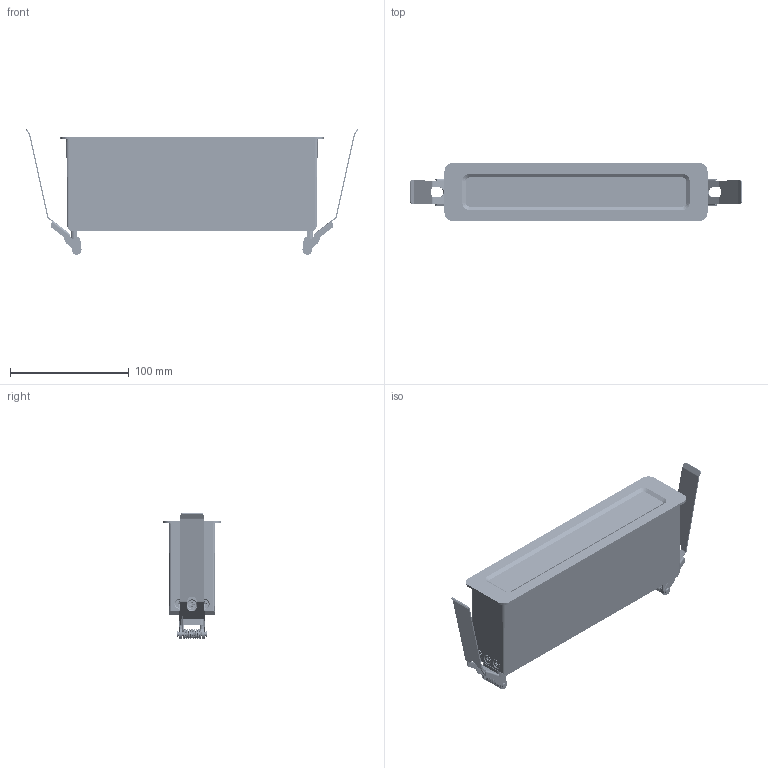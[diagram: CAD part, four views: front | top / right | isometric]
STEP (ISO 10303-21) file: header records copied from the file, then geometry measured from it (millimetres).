
FILE_DESCRIPTION(/* description */ (''),/* implementation_level */ '2;1');
FILE_NAME(/* name */ 'Darcy 8 Cells Assembly - Rec.stp',/* time_stamp */ '2026-02-19T10:52:57+11:00',/* author */ ('Mlight'),/* organization */ (''),/* preprocessor_version */ 'ST-DEVELOPER v20',/* originating_system */ 'Autodesk Inventor 2024',/* authorisation */ '');
FILE_SCHEMA (('AUTOMOTIVE_DESIGN { 1 0 10303 214 3 1 1 }'));
Products named in the file (22): Evelo X 12 Cell SM Darcy; Ledil Darcy PCB; Evelo X Plastic Internal Body Darcy; DARCY-4x1; Copy (1) of C19683_DARCY-SHD_004_MechanicalModel_001; Copy (1) of Mechanical-LENS; Copy (2) of Mechanical-LENS; Copy (3) of Mechanical-LENS; Copy (4) of Mechanical-LENS; Evelo X Aluminium End Cap; Evelo X Heat Sink Toshine Revision; Evelo X Gasket; AS 1427 - M4 x 10; Air Vent RSV-M12 1.5; Air Vent RSV-M12 1.5_1; Heyco Snap In Liquid Tight Bushing 4014; Evelo Modular SM Outer Body; Custom Spring Assembly; Custom Spring Holder; Custom Spring Leg; Pin; Spring
Assembly tree (40 placements, depth 3):
  Evelo X 12 Cell SM Darcy
    Ledil Darcy PCB
    Evelo X Plastic Internal Body Darcy
    DARCY-4x1  x2
      Copy (1) of C19683_DARCY-SHD_004_MechanicalModel_001
      Copy (1) of Mechanical-LENS
      Copy (2) of Mechanical-LENS
      Copy (3) of Mechanical-LENS
      Copy (4) of Mechanical-LENS
    Evelo X Aluminium End Cap  x2
    Evelo X Heat Sink Toshine Revision
    Evelo X Gasket  x2
    AS 1427 - M4 x 10  x14
    Air Vent RSV-M12 1.5_1  x2
    Air Vent RSV-M12 1.5  x2
    Heyco Snap In Liquid Tight Bushing 4014
    Evelo Modular SM Outer Body
    Custom Spring Assembly  x2
      Custom Spring Holder
      Custom Spring Leg
      Pin
      Spring
Bounding box: 279.49 x 48.89 x 105.83 mm (x, y, z)
Volume: 315612.9 mm3; surface area: 268830.3 mm2
Topology: 45 solids, 45 shells, 5753 faces, 14782 edges, 8812 vertices
Faces by surface type: bspline 2380, plane 1115, cylinder 831, cone 741, torus 568, sphere 118
Full cylindrical faces by diameter (mm): 0.75 x2, 1.5 x8, 2.1 x2, 2.8 x2, 3 x8, 3.2 x4, 3.242 x6, 3.571 x14, 4 x15, 4.5 x18, 4.8 x4, 5 x4, 7 x14, 10 x4, 10.5 x2, 12.5 x1, 19.5 x1
Entity records: 160337 total; most frequent: CARTESIAN_POINT 93546, ORIENTED_EDGE 14906, DIRECTION 12436, EDGE_CURVE 7453, AXIS2_PLACEMENT_3D 5214, VERTEX_POINT 4541, EDGE_LOOP 3046, FACE_OUTER_BOUND 2933
